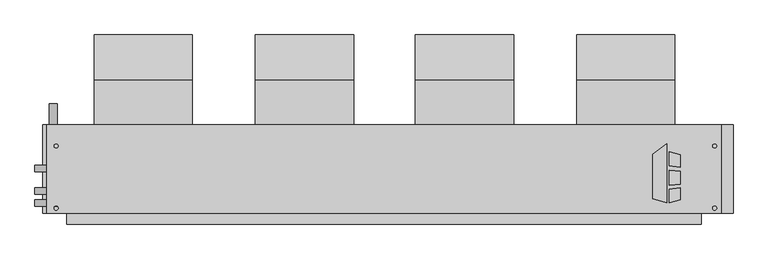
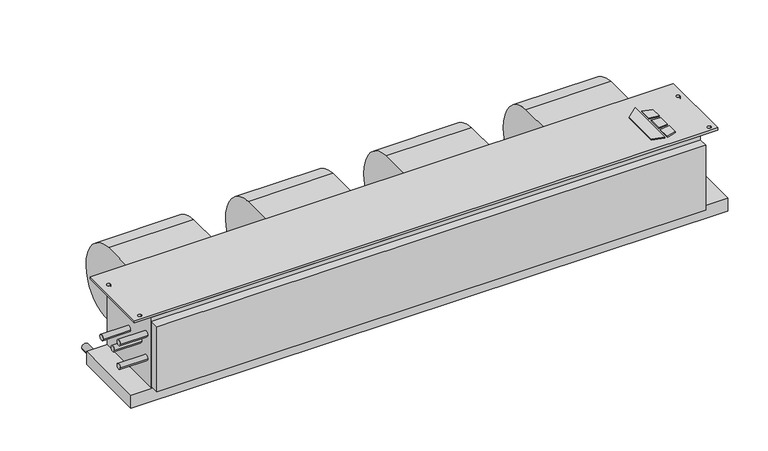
"""IFC4 building model written with IfcOpenShell, lengths in millimetres: proxy geometry, Concealed_Horizontal_Fan_Coil_Unit_-_CHY_-_IEC_-_4-Pipe_LH_2022 : Size 12 - 277v/60Hz/1Ph - 4/1 Coil."""

from ifc_helpers import new_model, si_unit, point, frame, frame_2d, origin, origin_with_axes, place, context, project, spatial, polyline, circle_curve, trimmed, segment, composite_curve, outline, extrude, source, transform, mapped, element, save


def mechanical_equipment_2d8c5a3b(model_context):
    return source(origin(), model_context, "Body", "SweptSolid", [
        extrude(outline(polyline([(798.2019761, -202.5703476), (830.7602728, -177.1330184), (830.7602728, -319.0875), (798.2019761, -308.8679201), (798.2019761, -202.5703476)])), origin_with_axes(), (0.0, 0.0, 1.0), 3.175),
        extrude(outline(polyline([(837.5186058, -230.442352), (837.5186058, -195.9624379), (863.6, -204.1490115), (863.6, -233.6447446), (837.5186058, -230.442352)])), origin_with_axes(), (0.0, 0.0, 1.0), 3.175),
        extrude(outline(polyline([(863.6, -312.0990115), (837.5186058, -319.0875), (837.5186058, -285.8661996), (863.6, -282.3243564), (863.6, -312.0990115)])), origin_with_axes(), (0.0, 0.0, 1.0), 3.175),
        extrude(outline(polyline([(863.6, -242.7263277), (863.6, -273.976483), (837.5186058, -276.717748), (837.5186058, -240.8600378), (863.6, -242.7263277)])), origin_with_axes(), (0.0, 0.0, 1.0), 3.175),
        extrude(outline(composite_curve([segment(trimmed(circle_curve(frame_2d((-33.198831, -136.0299844)), 117.3559541), [point((-23.8125, -19.05))], [point((84.1375, -138.176))], False, "CARTESIAN"), True, "CONTINUOUS"), segment(trimmed(circle_curve(frame_2d((-11.5977337, -136.4250563)), 95.7512443), [point((84.1375, -138.176))], [point((-23.8125, -231.394))], False, "CARTESIAN"), True, "CONTINUOUS"), segment(trimmed(circle_curve(frame_2d((-11.6288131, -136.6666968)), 95.5076133), [point((-23.8125, -231.394))], [point((-107.1245, -138.176))], False, "CARTESIAN"), True, "CONTINUOUS"), segment(trimmed(circle_curve(frame_2d((-126.2059828, -138.4775816)), 19.0838659), [point((-107.1245, -138.176))], [point((-119.3963373, -120.65))], True, "CARTESIAN"), True, "CONTINUOUS"), segment(polyline([(-119.3963373, -120.65), (-131.7625, -120.65), (-131.7625, -19.05), (-23.8125, -19.05)]), True, "CONTINUOUS")], self_intersect=False)), frame((615.188, 0.0, 0.0), z_axis=(1.0, 0.0, 0.0), x_axis=(0.0, 1.0, 0.0)), (0.0, 0.0, 1.0), 235.712),
        extrude(outline(composite_curve([segment(trimmed(circle_curve(frame_2d((-33.198831, -136.0299844)), 117.3559541), [point((-23.8125, -19.05))], [point((84.1375, -138.176))], False, "CARTESIAN"), True, "CONTINUOUS"), segment(trimmed(circle_curve(frame_2d((-11.5977337, -136.4250563)), 95.7512443), [point((84.1375, -138.176))], [point((-23.8125, -231.394))], False, "CARTESIAN"), True, "CONTINUOUS"), segment(trimmed(circle_curve(frame_2d((-11.6288131, -136.6666968)), 95.5076133), [point((-23.8125, -231.394))], [point((-107.1245, -138.176))], False, "CARTESIAN"), True, "CONTINUOUS"), segment(trimmed(circle_curve(frame_2d((-126.2059828, -138.4775816)), 19.0838659), [point((-107.1245, -138.176))], [point((-119.3963373, -120.65))], True, "CARTESIAN"), True, "CONTINUOUS"), segment(polyline([(-119.3963373, -120.65), (-131.7625, -120.65), (-131.7625, -19.05), (-23.8125, -19.05)]), True, "CONTINUOUS")], self_intersect=False)), frame((-543.687, 0.0, 0.0), z_axis=(1.0, 0.0, 0.0), x_axis=(0.0, 1.0, 0.0)), (0.0, 0.0, 1.0), 235.712),
        extrude(outline(composite_curve([segment(trimmed(circle_curve(frame_2d((-33.198831, -136.0299844)), 117.3559541), [point((-23.8125, -19.05))], [point((84.1375, -138.176))], False, "CARTESIAN"), True, "CONTINUOUS"), segment(trimmed(circle_curve(frame_2d((-11.5977337, -136.4250563)), 95.7512443), [point((84.1375, -138.176))], [point((-23.8125, -231.394))], False, "CARTESIAN"), True, "CONTINUOUS"), segment(trimmed(circle_curve(frame_2d((-11.6288131, -136.6666968)), 95.5076133), [point((-23.8125, -231.394))], [point((-107.1245, -138.176))], False, "CARTESIAN"), True, "CONTINUOUS"), segment(trimmed(circle_curve(frame_2d((-126.2059828, -138.4775816)), 19.0838659), [point((-107.1245, -138.176))], [point((-119.3963373, -120.65))], True, "CARTESIAN"), True, "CONTINUOUS"), segment(polyline([(-119.3963373, -120.65), (-131.7625, -120.65), (-131.7625, -19.05), (-23.8125, -19.05)]), True, "CONTINUOUS")], self_intersect=False)), frame((-156.337, 0.0, 0.0), z_axis=(1.0, 0.0, 0.0), x_axis=(0.0, 1.0, 0.0)), (0.0, 0.0, 1.0), 235.712),
        extrude(outline(composite_curve([segment(trimmed(circle_curve(frame_2d((-33.198831, -136.0299844)), 117.3559541), [point((-23.8125, -19.05))], [point((84.1375, -138.176))], False, "CARTESIAN"), True, "CONTINUOUS"), segment(trimmed(circle_curve(frame_2d((-11.5977337, -136.4250563)), 95.7512443), [point((84.1375, -138.176))], [point((-23.8125, -231.394))], False, "CARTESIAN"), True, "CONTINUOUS"), segment(trimmed(circle_curve(frame_2d((-11.6288131, -136.6666968)), 95.5076133), [point((-23.8125, -231.394))], [point((-107.1245, -138.176))], False, "CARTESIAN"), True, "CONTINUOUS"), segment(trimmed(circle_curve(frame_2d((-126.2059828, -138.4775816)), 19.0838659), [point((-107.1245, -138.176))], [point((-119.3963373, -120.65))], True, "CARTESIAN"), True, "CONTINUOUS"), segment(polyline([(-119.3963373, -120.65), (-131.7625, -120.65), (-131.7625, -19.05), (-23.8125, -19.05)]), True, "CONTINUOUS")], self_intersect=False)), frame((227.838, 0.0, 0.0), z_axis=(1.0, 0.0, 0.0), x_axis=(0.0, 1.0, 0.0)), (0.0, 0.0, 1.0), 235.712),
        extrude(outline(polyline([(962.025, -131.7625), (962.025, -344.4875), (-657.225, -344.4875), (-657.225, -131.7625), (962.025, -131.7625)]), holes=[composite_curve([segment(trimmed(circle_curve(frame_2d((-635.0, -182.5625)), 4.7625), [point((-639.7625, -182.5625))], [point((-630.2375, -182.5625))], True, "CARTESIAN"), True, "CONTINUOUS"), segment(trimmed(circle_curve(frame_2d((-635.0, -182.5625)), 4.7625), [point((-630.2375, -182.5625))], [point((-639.7625, -182.5625))], True, "CARTESIAN"), True, "CONTINUOUS")], self_intersect=False), composite_curve([segment(trimmed(circle_curve(frame_2d((-635.0, -331.7875)), 4.7625), [point((-639.7625, -331.7875))], [point((-630.2375, -331.7875))], True, "CARTESIAN"), True, "CONTINUOUS"), segment(trimmed(circle_curve(frame_2d((-635.0, -331.7875)), 4.7625), [point((-630.2375, -331.7875))], [point((-639.7625, -331.7875))], True, "CARTESIAN"), True, "CONTINUOUS")], self_intersect=False), composite_curve([segment(trimmed(circle_curve(frame_2d((946.15, -182.5625)), 4.7625), [point((941.3875, -182.5625))], [point((950.9125, -182.5625))], True, "CARTESIAN"), True, "CONTINUOUS"), segment(trimmed(circle_curve(frame_2d((946.15, -182.5625)), 4.7625), [point((950.9125, -182.5625))], [point((941.3875, -182.5625))], True, "CARTESIAN"), True, "CONTINUOUS")], self_intersect=False), composite_curve([segment(trimmed(circle_curve(frame_2d((946.15, -331.7875)), 4.7625), [point((941.3875, -331.7875))], [point((950.9125, -331.7875))], True, "CARTESIAN"), True, "CONTINUOUS"), segment(trimmed(circle_curve(frame_2d((946.15, -331.7875)), 4.7625), [point((950.9125, -331.7875))], [point((941.3875, -331.7875))], True, "CARTESIAN"), True, "CONTINUOUS")], self_intersect=False)]), frame((0.0, 0.0, -6.35), z_axis=(0.0, 0.0, 1.0), x_axis=(1.0, 0.0, 0.0)), (0.0, 0.0, 1.0), 6.35),
        extrude(outline(composite_curve([segment(trimmed(circle_curve(frame_2d((-241.3, -641.35)), 9.525), [point((-241.3, -650.875))], [point((-241.3, -631.825))], False, "CARTESIAN"), True, "CONTINUOUS"), segment(trimmed(circle_curve(frame_2d((-241.3, -641.35)), 9.525), [point((-241.3, -631.825))], [point((-241.3, -650.875))], False, "CARTESIAN"), True, "CONTINUOUS")], self_intersect=False)), frame((0.0, -131.7625, 0.0), z_axis=(0.0, 1.0, 0.0), x_axis=(0.0, 0.0, 1.0)), (0.0, 0.0, 1.0), 50.8),
        extrude(outline(polyline([(914.4, -369.8875), (-609.6, -369.8875), (-609.6, -344.4875), (914.4, -344.4875), (914.4, -369.8875)])), frame((0.0, 0.0, -209.55), z_axis=(0.0, 0.0, 1.0), x_axis=(1.0, 0.0, 0.0)), (0.0, 0.0, 1.0), 190.5),
        extrude(outline(polyline([(990.6, -131.7625), (990.6, -344.4875), (-666.75, -344.4875), (-666.75, -131.7625), (990.6, -131.7625)])), frame((0.0, 0.0, -254.0), z_axis=(0.0, 0.0, 1.0), x_axis=(1.0, 0.0, 0.0)), (0.0, 0.0, 1.0), 38.1),
        extrude(outline(composite_curve([segment(trimmed(circle_curve(frame_2d((-236.5375, -104.775)), 7.9375), [point((-228.6, -104.775))], [point((-244.475, -104.775))], False, "CARTESIAN"), True, "CONTINUOUS"), segment(trimmed(circle_curve(frame_2d((-236.5375, -104.775)), 7.9375), [point((-244.475, -104.775))], [point((-228.6, -104.775))], False, "CARTESIAN"), True, "CONTINUOUS")], self_intersect=False)), frame((-685.8, 0.0, 0.0), z_axis=(1.0, 0.0, 0.0), x_axis=(0.0, 1.0, 0.0)), (0.0, 0.0, 1.0), 76.2),
        extrude(outline(composite_curve([segment(trimmed(circle_curve(frame_2d((-290.5125, -104.775)), 7.9375), [point((-282.575, -104.775))], [point((-298.45, -104.775))], False, "CARTESIAN"), True, "CONTINUOUS"), segment(trimmed(circle_curve(frame_2d((-290.5125, -104.775)), 7.9375), [point((-298.45, -104.775))], [point((-282.575, -104.775))], False, "CARTESIAN"), True, "CONTINUOUS")], self_intersect=False)), frame((-685.8, 0.0, 0.0), z_axis=(1.0, 0.0, 0.0), x_axis=(0.0, 1.0, 0.0)), (0.0, 0.0, 1.0), 76.2),
        extrude(outline(composite_curve([segment(trimmed(circle_curve(frame_2d((-319.0875, -69.85)), 7.9375), [point((-311.15, -69.85))], [point((-327.025, -69.85))], False, "CARTESIAN"), True, "CONTINUOUS"), segment(trimmed(circle_curve(frame_2d((-319.0875, -69.85)), 7.9375), [point((-327.025, -69.85))], [point((-311.15, -69.85))], False, "CARTESIAN"), True, "CONTINUOUS")], self_intersect=False)), frame((-685.8, 0.0, 0.0), z_axis=(1.0, 0.0, 0.0), x_axis=(0.0, 1.0, 0.0)), (0.0, 0.0, 1.0), 76.2),
        extrude(outline(composite_curve([segment(trimmed(circle_curve(frame_2d((-319.0875, -139.7)), 7.9375), [point((-311.15, -139.7))], [point((-327.025, -139.7))], False, "CARTESIAN"), True, "CONTINUOUS"), segment(trimmed(circle_curve(frame_2d((-319.0875, -139.7)), 7.9375), [point((-327.025, -139.7))], [point((-311.15, -139.7))], False, "CARTESIAN"), True, "CONTINUOUS")], self_intersect=False)), frame((-685.8, 0.0, 0.0), z_axis=(1.0, 0.0, 0.0), x_axis=(0.0, 1.0, 0.0)), (0.0, 0.0, 1.0), 76.2),
        extrude(outline(polyline([(914.4, -344.4875), (-609.6, -344.4875), (-609.6, -131.7625), (914.4, -131.7625), (914.4, -344.4875)])), frame((0.0, 0.0, -215.9), z_axis=(0.0, 0.0, 1.0), x_axis=(1.0, 0.0, 0.0)), (0.0, 0.0, 1.0), 209.55),
    ])


if __name__ == "__main__":
    model = new_model("IFC4")
    model_context = context("Model", 3, world=origin())
    ifc_project = project(units=[si_unit("LENGTHUNIT", "METRE", prefix="MILLI")], contexts=[model_context])
    site = spatial("IfcSite", under=ifc_project)
    building = spatial("IfcBuilding", under=site)
    placement = place(None, origin())
    mechanical_equipment_shape = mechanical_equipment_2d8c5a3b(model_context)
    element("IfcBuildingElementProxy", 1, Name="Concealed_Horizontal_Fan_Coil_Unit_-_CHY_-_IEC_-_4-Pipe_LH_2022 : Size 12 - 277v/60Hz/1Ph - 4/1 Coil", ObjectType="Concealed_Horizontal_Fan_Coil_Unit_-_CHY_-_IEC_-_4-Pipe_LH_2022 : Size 12 - 277v/60Hz/1Ph - 4/1 Coil", at=placement, inside=building, context=model_context, shape_type="MappedRepresentation", body=[
        mapped(mechanical_equipment_shape, transform((0.0, 0.0, 0.0), x_axis=(1.0, 0.0, 0.0), y_axis=(0.0, 1.0, 0.0), z_axis=(0.0, 0.0, 1.0))),
    ])
    save(model, "model.ifc")
